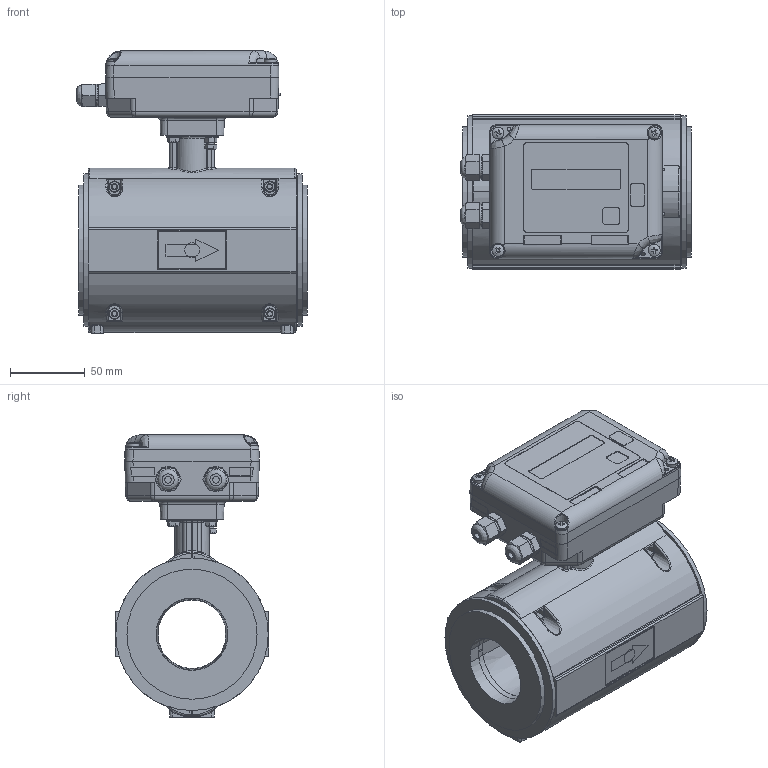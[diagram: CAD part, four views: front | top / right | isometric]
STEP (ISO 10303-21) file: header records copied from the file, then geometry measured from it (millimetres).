
FILE_DESCRIPTION(('STEP AP242'), '1');
FILE_NAME('1_ØÊÑÄ.407212.032-003 Ðàñõîäîìåð-ñ÷¸ò÷èê ýëåêòðîìàãíèòíûé Âçë¸ò èñïîëíåíèå Ëàéò Ì', '', ('UNSPECIFIED'), ('UNSPECIFIED'), 'ASCON STEP Converter 1.6', 'ASCON Math Kernel', '');
FILE_SCHEMA(('AP242_MANAGED_MODEL_BASED_3D_ENGINEERING_MIM_LF { 1 0 10303 442 1 1 4 }'));
Length unit declared in the file: millimetre
Products named in the file (1): 婽挭.407212.032-003.03-003.08
Bounding box: 154.38 x 103 x 188.9 mm (x, y, z)
Volume: 644867.2 mm3; surface area: 326493.1 mm2
Topology: 58 solids, 58 shells, 2835 faces, 6875 edges, 4144 vertices
Faces by surface type: plane 1065, cylinder 730, bspline 499, cone 307, torus 218, sphere 16
Full cylindrical faces by diameter (mm): 2 x4, 2.3 x9, 2.4 x2, 3 x2, 3.242 x13, 3.422 x4, 3.6 x2, 4 x70, 4.3 x8, 4.5 x20, 5.5 x8, 7 x20, 7.5 x4, 7.65 x1, 8 x9, 9 x7, 10 x1, 12 x6, 12.2 x2, 12.5 x2, 15 x2, 16.5 x2, 17 x1, 18 x1, 87 x2, 91 x2, 94 x2, 95 x4, 102 x2
Entity records: 203530 total; most frequent: CARTESIAN_POINT 122312, ORIENTED_EDGE 12642, DIRECTION 10085, EDGE_CURVE 6321, VERTEX_POINT 4129, AXIS2_PLACEMENT_3D 3846, EDGE_LOOP 3508, COLOUR_RGB 2893
